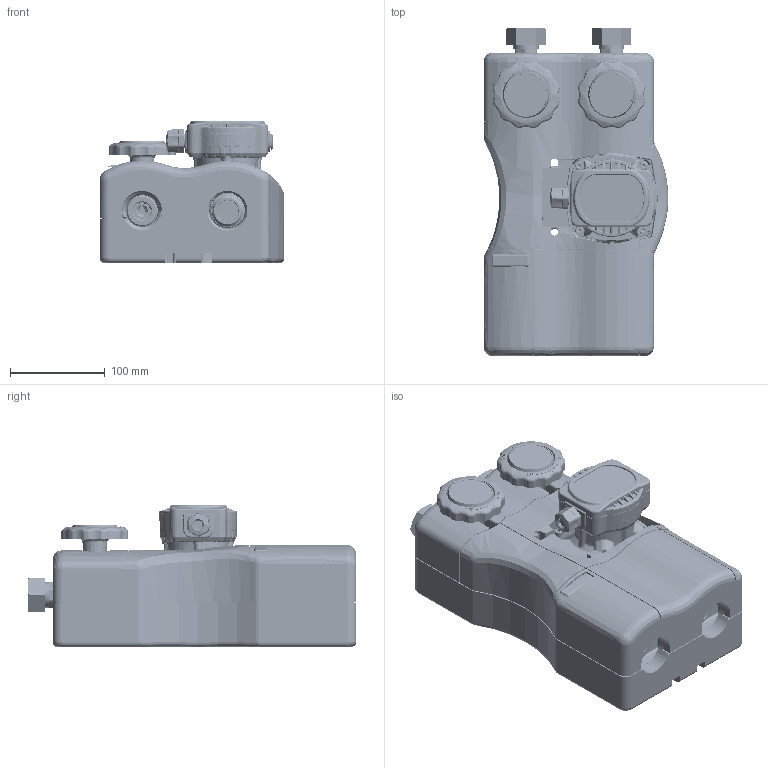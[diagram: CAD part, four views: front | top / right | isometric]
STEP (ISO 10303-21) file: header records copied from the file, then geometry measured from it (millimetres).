
FILE_DESCRIPTION (( 'STEP AP214' ), '1' );
FILE_NAME ('BPG240_Grupa_pompowa_DN20_9024000_0_3D_AFRISO.STEP', '2024-02-05T09:52:33', ( '' ), ( '' ), 'SwSTEP 2.0', 'SolidWorks 2022', '' );
FILE_SCHEMA (( 'AUTOMOTIVE_DESIGN' ));
Length unit declared in the file: millimetre
Products named in the file (53): 59405171; 54705879; 30525300; AHP180_top; 52110003; b; 31605384; 30505300; 94105073; 59505581; 53605974; 30105200; 33208005; 59405170; BPG240_Grupa_pompowa_DN20_9024000_0_3D_AFRISO; 53516003; 59405173; 30105199; 24105071; 52905873; 54305173; 33208065; 24105073; 50905872_Nera; 23208006; 31505553; 31605332; 74105072; 50705173; 94105071; 30913120; korpus; 59505407; 33208055; 52905973; uszczelka1inch; 52905085; 58905005; 53105253; 24105072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
Assembly tree (70 placements, depth 6):
  BPG240_Grupa_pompowa_DN20_9024000_0_3D_AFRISO
    74105072
      94105072
        24105072
          30105198
          33208055
          52705005  x2
          30525300
            30505300
            52905873  x2
          31605332
          52110003
        31505091
        50905872_Nera
        52005071
      31505553
      53105253
    74105073
      94105073
        24105073
          30105200
          30525300
            30505300
            52905873  x2
          33208005
          31605384
          52705005  x2
        30913120
        52110005
      31505553
      53105253
    94105071
      24105071
        30105199
        52705005  x2
        30525300
          30505300
          52905873  x2
        31605332
        23208006
          33208065
          50705173
          54305173
          52905973
          53605974
      31505091
      50905872_Nera
      52005071
    53516003
    58905005
    59505407
    53605423_D‚faut
    52905085
    59405170
    59405171
    59405172
    59405173
    59505581
    APH-100-15-7-130
    AHP180_top
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Bounding box: 194.75 x 346.16 x 149.48 mm (x, y, z)
Volume: 4792637.1 mm3; surface area: 808704.4 mm2
Topology: 82 solids, 83 shells, 11106 faces, 28194 edges, 17388 vertices
Faces by surface type: bspline 3778, plane 3427, cylinder 3016, cone 613, torus 200, sphere 72
Entity records: 536204 total; most frequent: CARTESIAN_POINT 314942, ORIENTED_EDGE 46778, DIRECTION 30469, EDGE_CURVE 23389, VERTEX_POINT 14450, AXIS2_PLACEMENT_3D 11061, EDGE_LOOP 9653, FACE_OUTER_BOUND 9292
